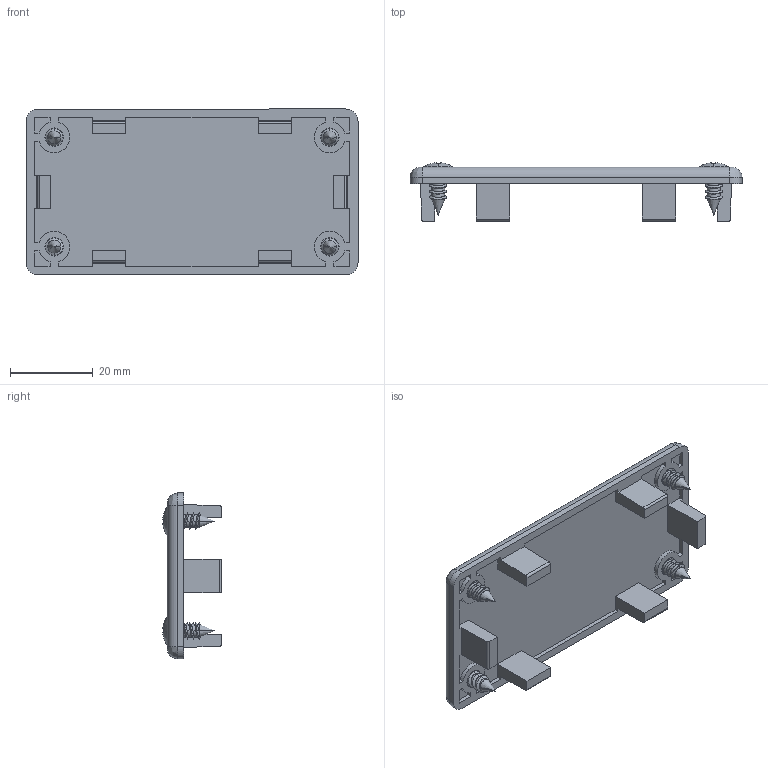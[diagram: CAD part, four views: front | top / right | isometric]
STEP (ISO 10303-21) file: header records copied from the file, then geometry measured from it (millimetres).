
FILE_DESCRIPTION (( 'STEP AP214' ), '1' );
FILE_NAME ('11484_KANAABDSTZ8040.STEP', '2017-03-02T14:38:24', ( '' ), ( '' ), 'SwSTEP 2.0', 'SolidWorks 2016', '' );
FILE_SCHEMA (( 'AUTOMOTIVE_DESIGN' ));
Length unit declared in the file: millimetre
Products named in the file (1): 11484_KANAABDSTZ8040
Bounding box: 80 x 14.06 x 40 mm (x, y, z)
Volume: 11602.6 mm3; surface area: 9886.3 mm2
Topology: 5 solids, 5 shells, 367 faces, 992 edges, 632 vertices
Faces by surface type: plane 147, cone 100, cylinder 92, bspline 28
Entity records: 16925 total; most frequent: CARTESIAN_POINT 4100, ORIENTED_EDGE 1952, DIRECTION 1680, EDGE_CURVE 976, AXIS2_PLACEMENT_3D 644, VERTEX_POINT 632, LINE 392, VECTOR 392
